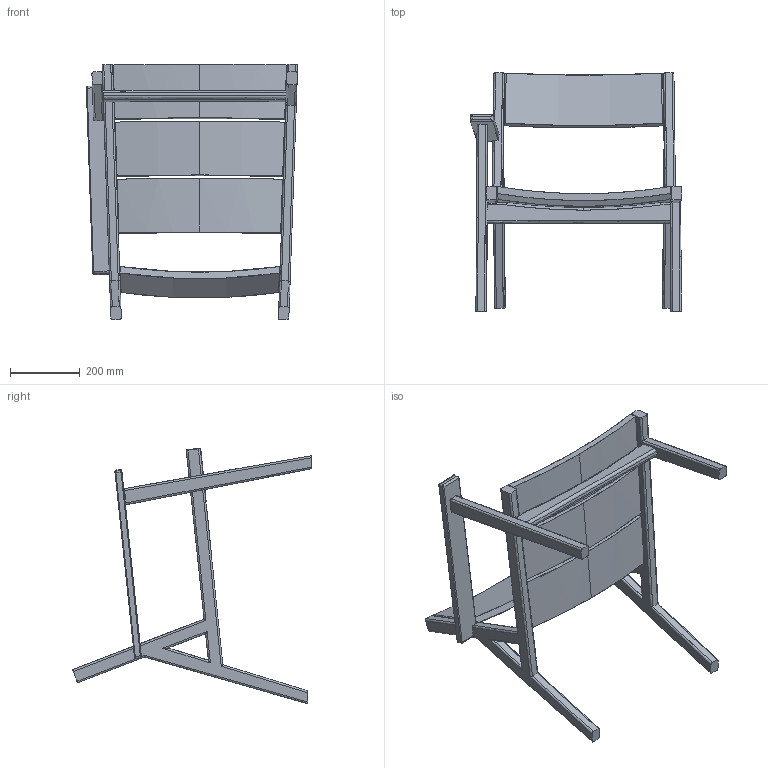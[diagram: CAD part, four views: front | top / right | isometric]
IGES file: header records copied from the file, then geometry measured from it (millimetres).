
Start section: SolidWorks IGES file using analytic representation for surfaces
Global section: file name: C:\Users\Utilizador\Desktop\Outdoor Files\576Z Outdoor One Arm Lounge Chair\3D IGS\576ZL_ZR Outdoor One Arm Lounge_3D IGS.IGS; native system: SolidWorks 2016; preprocessor: SolidWorks 2016; author: Utilizador; date: 220124.150923; units: millimetre
Bounding box: 607.78 x 686.52 x 734.69 mm (x, y, z)
Surface area: 1322067.6 mm2 (no closed solid volume)
Topology: 0 solids, 0 shells, 247 faces, 2807 edges, 2799 vertices
Faces by surface type: bspline 156, revolution 91
